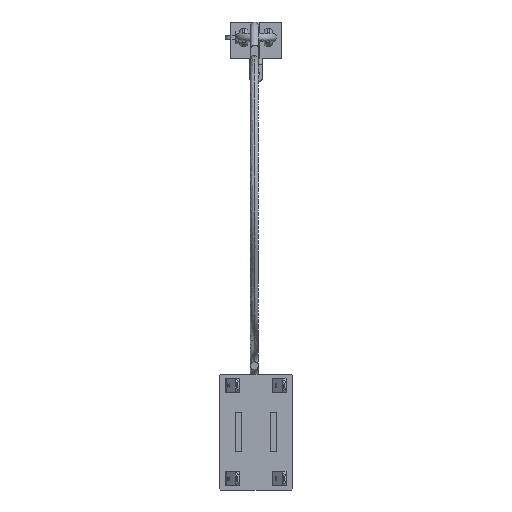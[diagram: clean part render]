
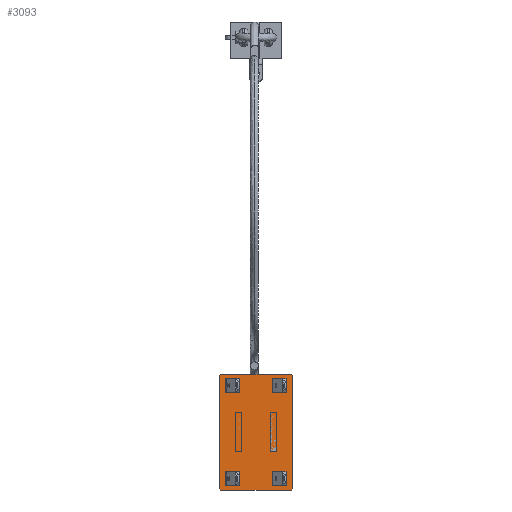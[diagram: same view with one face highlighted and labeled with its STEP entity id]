
A CAD part, front view. The second image highlights one B-rep face of the part: STEP entity #3093.
In plain terms, the highlighted planar face has unit normal (0, -1, 0) as drawn and (0, 0, -1) by its records, which use the part's own axes.
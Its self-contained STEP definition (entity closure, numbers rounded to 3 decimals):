
#11 = VERTEX_POINT ( 'NONE', #13083 ) ;
#34 = DIRECTION ( 'NONE',  ( 0.707, -0.707, 0. ) ) ;
#80 = DIRECTION ( 'NONE',  ( 0., 0., -1. ) ) ;
#100 = FACE_BOUND ( 'NONE', #6181, .T. ) ;
#150 = VERTEX_POINT ( 'NONE', #7573 ) ;
#160 = EDGE_CURVE ( 'NONE', #11113, #150, #5893, .T. ) ;
#252 = DIRECTION ( 'NONE',  ( 0., 1., 0. ) ) ;
#294 = VERTEX_POINT ( 'NONE', #12447 ) ;
#521 = ORIENTED_EDGE ( 'NONE', *, *, #5547, .F. ) ;
#546 = CARTESIAN_POINT ( 'NONE',  ( 45., -18.75, -6. ) ) ;
#558 = CARTESIAN_POINT ( 'NONE',  ( -45., -18.75, -6. ) ) ;
#591 = CARTESIAN_POINT ( 'NONE',  ( 45., -27.25, -6. ) ) ;
#733 = ORIENTED_EDGE ( 'NONE', *, *, #9477, .F. ) ;
#869 = CARTESIAN_POINT ( 'NONE',  ( 45.25, -45.25, -6. ) ) ;
#976 = CARTESIAN_POINT ( 'NONE',  ( 56., -35.5, -6. ) ) ;
#1054 = CIRCLE ( 'NONE', #6388, 4.25 ) ;
#1108 = CARTESIAN_POINT ( 'NONE',  ( 55., 34.5, -6. ) ) ;
#1231 = LINE ( 'NONE', #869, #12877 ) ;
#1469 = DIRECTION ( 'NONE',  ( 0., 0., -1. ) ) ;
#1476 = DIRECTION ( 'NONE',  ( 0., 0., -1. ) ) ;
#1480 = VERTEX_POINT ( 'NONE', #13230 ) ;
#1702 = ORIENTED_EDGE ( 'NONE', *, *, #7685, .T. ) ;
#1732 = AXIS2_PLACEMENT_3D ( 'NONE', #13217, #5694, #13252 ) ;
#1753 = VERTEX_POINT ( 'NONE', #12555 ) ;
#1961 = EDGE_CURVE ( 'NONE', #6608, #11144, #7866, .T. ) ;
#2141 = CARTESIAN_POINT ( 'NONE',  ( -56., -35.5, -6. ) ) ;
#2276 = CARTESIAN_POINT ( 'NONE',  ( -55., 34.5, -6. ) ) ;
#2400 = DIRECTION ( 'NONE',  ( -1., 0., 0. ) ) ;
#2447 = VECTOR ( 'NONE', #3039, 1000. ) ;
#2536 = VECTOR ( 'NONE', #34, 1000. ) ;
#2610 = AXIS2_PLACEMENT_3D ( 'NONE', #6454, #8640, #3408 ) ;
#2634 = VERTEX_POINT ( 'NONE', #9156 ) ;
#2654 = FACE_BOUND ( 'NONE', #6518, .T. ) ;
#2705 = DIRECTION ( 'NONE',  ( 0., 1., 0. ) ) ;
#2831 = ORIENTED_EDGE ( 'NONE', *, *, #10583, .F. ) ;
#2942 = VECTOR ( 'NONE', #12079, 1000. ) ;
#3039 = DIRECTION ( 'NONE',  ( -0.707, 0.707, 0. ) ) ;
#3084 = CARTESIAN_POINT ( 'NONE',  ( -45.25, -45.25, -6. ) ) ;
#3093 = ADVANCED_FACE ( 'NONE', ( #2654, #3510, #100, #8364, #10569 ), #13153, .T. ) ;
#3196 = EDGE_CURVE ( 'NONE', #11520, #10320, #5677, .T. ) ;
#3224 = VERTEX_POINT ( 'NONE', #558 ) ;
#3252 = DIRECTION ( 'NONE',  ( 0., 0., -1. ) ) ;
#3260 = EDGE_CURVE ( 'NONE', #3224, #1480, #12114, .T. ) ;
#3282 = CIRCLE ( 'NONE', #2610, 4.25 ) ;
#3408 = DIRECTION ( 'NONE',  ( 0., 1., 0. ) ) ;
#3510 = FACE_BOUND ( 'NONE', #4484, .T. ) ;
#3569 = ORIENTED_EDGE ( 'NONE', *, *, #9833, .T. ) ;
#3658 = DIRECTION ( 'NONE',  ( 0., 1., 0. ) ) ;
#3741 = ORIENTED_EDGE ( 'NONE', *, *, #13742, .T. ) ;
#4278 = AXIS2_PLACEMENT_3D ( 'NONE', #13211, #4583, #252 ) ;
#4300 = CARTESIAN_POINT ( 'NONE',  ( -55., -35.5, -6. ) ) ;
#4457 = LINE ( 'NONE', #7929, #11170 ) ;
#4484 = EDGE_LOOP ( 'NONE', ( #13486, #2831 ) ) ;
#4583 = DIRECTION ( 'NONE',  ( 0., 0., -1. ) ) ;
#4977 = CIRCLE ( 'NONE', #6020, 4.25 ) ;
#5046 = VECTOR ( 'NONE', #11559, 1000. ) ;
#5315 = DIRECTION ( 'NONE',  ( 0.707, 0.707, 0. ) ) ;
#5409 = CIRCLE ( 'NONE', #4278, 4.25 ) ;
#5547 = EDGE_CURVE ( 'NONE', #1753, #11, #13256, .T. ) ;
#5677 = CIRCLE ( 'NONE', #6793, 4.25 ) ;
#5694 = DIRECTION ( 'NONE',  ( 0., 0., -1. ) ) ;
#5752 = VERTEX_POINT ( 'NONE', #6678 ) ;
#5786 = ORIENTED_EDGE ( 'NONE', *, *, #3260, .F. ) ;
#5813 = LINE ( 'NONE', #9668, #11210 ) ;
#5893 = LINE ( 'NONE', #13220, #2536 ) ;
#5905 = DIRECTION ( 'NONE',  ( 0., 0., -1. ) ) ;
#5931 = ORIENTED_EDGE ( 'NONE', *, *, #160, .T. ) ;
#6020 = AXIS2_PLACEMENT_3D ( 'NONE', #12319, #1469, #2705 ) ;
#6181 = EDGE_LOOP ( 'NONE', ( #521, #7701 ) ) ;
#6388 = AXIS2_PLACEMENT_3D ( 'NONE', #11936, #80, #7993 ) ;
#6454 = CARTESIAN_POINT ( 'NONE',  ( 45., 22., -6. ) ) ;
#6518 = EDGE_LOOP ( 'NONE', ( #13137, #8864 ) ) ;
#6608 = VERTEX_POINT ( 'NONE', #12262 ) ;
#6678 = CARTESIAN_POINT ( 'NONE',  ( -56., 33.5, -6. ) ) ;
#6793 = AXIS2_PLACEMENT_3D ( 'NONE', #10232, #5905, #8990 ) ;
#7451 = ORIENTED_EDGE ( 'NONE', *, *, #8266, .T. ) ;
#7562 = VERTEX_POINT ( 'NONE', #9327 ) ;
#7573 = CARTESIAN_POINT ( 'NONE',  ( 56., 33.5, -6. ) ) ;
#7584 = CIRCLE ( 'NONE', #1732, 4.25 ) ;
#7685 = EDGE_CURVE ( 'NONE', #11144, #7562, #12550, .T. ) ;
#7690 = EDGE_LOOP ( 'NONE', ( #5786, #733 ) ) ;
#7701 = ORIENTED_EDGE ( 'NONE', *, *, #7759, .F. ) ;
#7759 = EDGE_CURVE ( 'NONE', #11, #1753, #1054, .T. ) ;
#7772 = DIRECTION ( 'NONE',  ( 0., 0., -1. ) ) ;
#7810 = CARTESIAN_POINT ( 'NONE',  ( 0., 0., -6. ) ) ;
#7866 = LINE ( 'NONE', #976, #5046 ) ;
#7914 = VECTOR ( 'NONE', #8958, 1000. ) ;
#7929 = CARTESIAN_POINT ( 'NONE',  ( -56., 34.5, -6. ) ) ;
#7993 = DIRECTION ( 'NONE',  ( 0., 1., 0. ) ) ;
#8097 = CARTESIAN_POINT ( 'NONE',  ( -45., -23., -6. ) ) ;
#8266 = EDGE_CURVE ( 'NONE', #2634, #6608, #1231, .T. ) ;
#8364 = FACE_BOUND ( 'NONE', #7690, .T. ) ;
#8640 = DIRECTION ( 'NONE',  ( 0., 0., -1. ) ) ;
#8769 = AXIS2_PLACEMENT_3D ( 'NONE', #8097, #1476, #3658 ) ;
#8822 = EDGE_LOOP ( 'NONE', ( #3741, #13376, #11605, #5931, #3569, #7451, #13042, #1702 ) ) ;
#8840 = CARTESIAN_POINT ( 'NONE',  ( 56., 34.5, -6. ) ) ;
#8864 = ORIENTED_EDGE ( 'NONE', *, *, #13750, .F. ) ;
#8958 = DIRECTION ( 'NONE',  ( 0., 1., 0. ) ) ;
#8990 = DIRECTION ( 'NONE',  ( 0., 1., 0. ) ) ;
#9085 = EDGE_CURVE ( 'NONE', #5752, #11993, #5813, .T. ) ;
#9156 = CARTESIAN_POINT ( 'NONE',  ( 56., -34.5, -6. ) ) ;
#9327 = CARTESIAN_POINT ( 'NONE',  ( -56., -34.5, -6. ) ) ;
#9330 = LINE ( 'NONE', #8840, #2942 ) ;
#9448 = DIRECTION ( 'NONE',  ( -0.707, -0.707, 0. ) ) ;
#9477 = EDGE_CURVE ( 'NONE', #1480, #3224, #4977, .T. ) ;
#9578 = DIRECTION ( 'NONE',  ( 0., 1., 0. ) ) ;
#9668 = CARTESIAN_POINT ( 'NONE',  ( -44.75, 44.75, -6. ) ) ;
#9673 = CARTESIAN_POINT ( 'NONE',  ( 45., 17.75, -6. ) ) ;
#9833 = EDGE_CURVE ( 'NONE', #150, #2634, #9330, .T. ) ;
#9892 = AXIS2_PLACEMENT_3D ( 'NONE', #13956, #3252, #9578 ) ;
#10109 = LINE ( 'NONE', #2141, #7914 ) ;
#10232 = CARTESIAN_POINT ( 'NONE',  ( 45., -23., -6. ) ) ;
#10320 = VERTEX_POINT ( 'NONE', #591 ) ;
#10569 = FACE_OUTER_BOUND ( 'NONE', #8822, .T. ) ;
#10583 = EDGE_CURVE ( 'NONE', #13229, #294, #3282, .T. ) ;
#11113 = VERTEX_POINT ( 'NONE', #1108 ) ;
#11144 = VERTEX_POINT ( 'NONE', #4300 ) ;
#11170 = VECTOR ( 'NONE', #13440, 1000. ) ;
#11210 = VECTOR ( 'NONE', #5315, 1000. ) ;
#11316 = EDGE_CURVE ( 'NONE', #11993, #11113, #4457, .T. ) ;
#11520 = VERTEX_POINT ( 'NONE', #546 ) ;
#11559 = DIRECTION ( 'NONE',  ( -1., 0., 0. ) ) ;
#11605 = ORIENTED_EDGE ( 'NONE', *, *, #11316, .T. ) ;
#11936 = CARTESIAN_POINT ( 'NONE',  ( -45., 22., -6. ) ) ;
#11993 = VERTEX_POINT ( 'NONE', #2276 ) ;
#12079 = DIRECTION ( 'NONE',  ( 0., -1., 0. ) ) ;
#12114 = CIRCLE ( 'NONE', #8769, 4.25 ) ;
#12262 = CARTESIAN_POINT ( 'NONE',  ( 55., -35.5, -6. ) ) ;
#12319 = CARTESIAN_POINT ( 'NONE',  ( -45., -23., -6. ) ) ;
#12447 = CARTESIAN_POINT ( 'NONE',  ( 45., 26.25, -6. ) ) ;
#12550 = LINE ( 'NONE', #3084, #2447 ) ;
#12555 = CARTESIAN_POINT ( 'NONE',  ( -45., 26.25, -6. ) ) ;
#12702 = EDGE_CURVE ( 'NONE', #294, #13229, #7584, .T. ) ;
#12877 = VECTOR ( 'NONE', #9448, 1000. ) ;
#13042 = ORIENTED_EDGE ( 'NONE', *, *, #1961, .T. ) ;
#13083 = CARTESIAN_POINT ( 'NONE',  ( -45., 17.75, -6. ) ) ;
#13137 = ORIENTED_EDGE ( 'NONE', *, *, #3196, .F. ) ;
#13153 = PLANE ( 'NONE',  #13675 ) ;
#13211 = CARTESIAN_POINT ( 'NONE',  ( 45., -23., -6. ) ) ;
#13217 = CARTESIAN_POINT ( 'NONE',  ( 45., 22., -6. ) ) ;
#13220 = CARTESIAN_POINT ( 'NONE',  ( 44.75, 44.75, -6. ) ) ;
#13229 = VERTEX_POINT ( 'NONE', #9673 ) ;
#13230 = CARTESIAN_POINT ( 'NONE',  ( -45., -27.25, -6. ) ) ;
#13252 = DIRECTION ( 'NONE',  ( 0., 1., 0. ) ) ;
#13256 = CIRCLE ( 'NONE', #9892, 4.25 ) ;
#13376 = ORIENTED_EDGE ( 'NONE', *, *, #9085, .T. ) ;
#13440 = DIRECTION ( 'NONE',  ( 1., 0., 0. ) ) ;
#13486 = ORIENTED_EDGE ( 'NONE', *, *, #12702, .F. ) ;
#13675 = AXIS2_PLACEMENT_3D ( 'NONE', #7810, #7772, #2400 ) ;
#13742 = EDGE_CURVE ( 'NONE', #7562, #5752, #10109, .T. ) ;
#13750 = EDGE_CURVE ( 'NONE', #10320, #11520, #5409, .T. ) ;
#13956 = CARTESIAN_POINT ( 'NONE',  ( -45., 22., -6. ) ) ;
